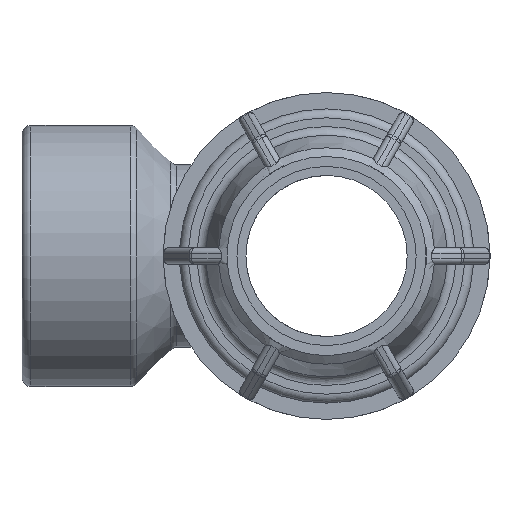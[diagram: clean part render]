
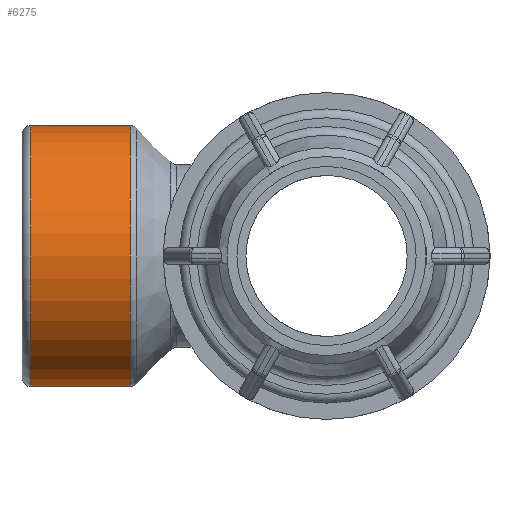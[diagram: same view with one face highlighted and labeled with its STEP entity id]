
A CAD part, left-side view. The second image highlights one B-rep face of the part: STEP entity #6275.
In plain terms, the highlighted cylindrical face has radius 29.149 mm (diameter 58.298 mm), a full revolution.
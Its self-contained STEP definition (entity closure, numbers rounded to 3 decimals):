
#1262=FACE_BOUND('',#2115,.T.);
#1672=FACE_OUTER_BOUND('',#2114,.T.);
#2114=EDGE_LOOP('',(#5734));
#2115=EDGE_LOOP('',(#5735));
#2467=CIRCLE('',#7026,29.149);
#2469=CIRCLE('',#7029,29.149);
#3007=VERTEX_POINT('',#11964);
#3009=VERTEX_POINT('',#11969);
#3919=EDGE_CURVE('',#3007,#3007,#2467,.T.);
#3921=EDGE_CURVE('',#3009,#3009,#2469,.T.);
#5734=ORIENTED_EDGE('',*,*,#3921,.F.);
#5735=ORIENTED_EDGE('',*,*,#3919,.F.);
#5870=CYLINDRICAL_SURFACE('',#7028,29.149);
#6275=ADVANCED_FACE('',(#1672,#1262),#5870,.T.);
#7026=AXIS2_PLACEMENT_3D('',#11965,#8886,#8887);
#7028=AXIS2_PLACEMENT_3D('',#11968,#8890,#8891);
#7029=AXIS2_PLACEMENT_3D('',#11970,#8892,#8893);
#8886=DIRECTION('center_axis',(0.,1.,0.));
#8887=DIRECTION('ref_axis',(1.,0.,0.));
#8890=DIRECTION('center_axis',(0.,1.,0.));
#8891=DIRECTION('ref_axis',(-1.,0.,0.));
#8892=DIRECTION('center_axis',(0.,-1.,0.));
#8893=DIRECTION('ref_axis',(1.,0.,0.));
#11964=CARTESIAN_POINT('',(-29.149,66.,0.));
#11965=CARTESIAN_POINT('Origin',(0.,66.,0.));
#11968=CARTESIAN_POINT('Origin',(0.,55.5,0.));
#11969=CARTESIAN_POINT('',(-29.149,43.828,0.));
#11970=CARTESIAN_POINT('Origin',(0.,43.828,0.));
